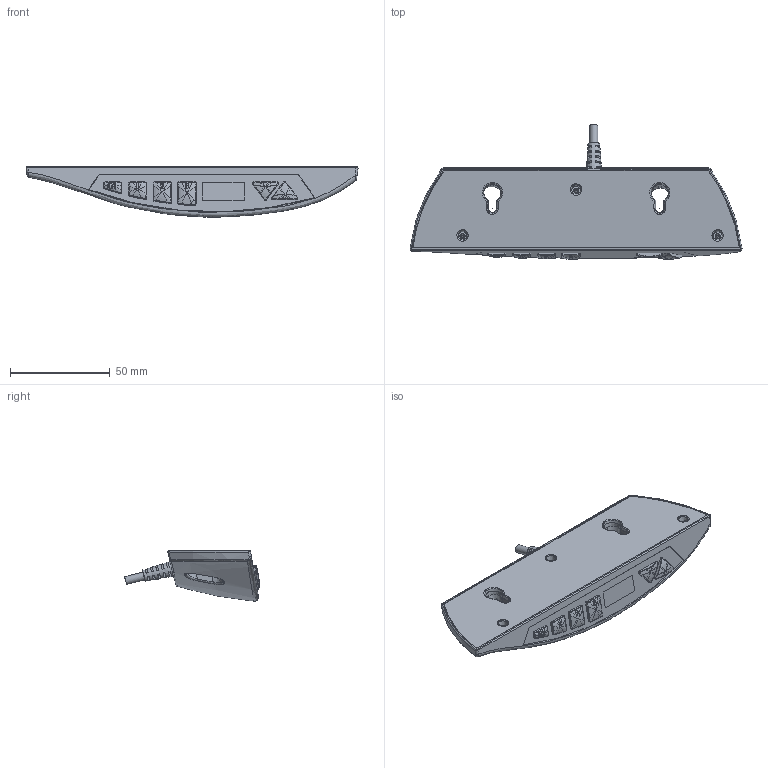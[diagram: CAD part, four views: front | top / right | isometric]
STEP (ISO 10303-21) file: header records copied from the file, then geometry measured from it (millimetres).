
FILE_DESCRIPTION(/* description */ ('Unknown'),/* implementation_level */ '2;1');
FILE_NAME(/* name */ '124.00281_00',/* time_stamp */ '2021-08-19T14:39:25+02:00',/* author */ ('Unknown'),/* organization */ ('Unknown'),/* preprocessor_version */ 'ST-DEVELOPER v16.7',/* originating_system */ 'Solid Edge',/* authorisation */ 'Unknown');
FILE_SCHEMA (('AUTOMOTIVE_DESIGN {1 0 10303 214 3 1 1}'));
Products named in the file (2): Asm1; 124.00281
Assembly tree (1 placements, depth 2):
  Asm1
    124.00281
Bounding box: 166.58 x 67.63 x 25.37 mm (x, y, z)
Volume: 40958.8 mm3; surface area: 49251.8 mm2
Topology: 39 solids, 39 shells, 2356 faces, 6456 edges, 4259 vertices
Faces by surface type: plane 1261, cylinder 623, bspline 387, sphere 35, cone 35, torus 15
Full cylindrical faces by diameter (mm): 0.05 x2, 0.231 x2, 0.28 x1, 0.283 x1, 0.284 x1, 0.306 x6, 1.38 x1, 1.5 x4, 1.8 x4, 1.89 x1, 2.2 x5, 2.6 x3, 4 x4, 6.5 x2
Entity records: 134449 total; most frequent: CARTESIAN_POINT 77798, ORIENTED_EDGE 12624, DIRECTION 10065, EDGE_CURVE 6312, VERTEX_POINT 4230, AXIS2_PLACEMENT_3D 3417, LINE 3231, VECTOR 3231
